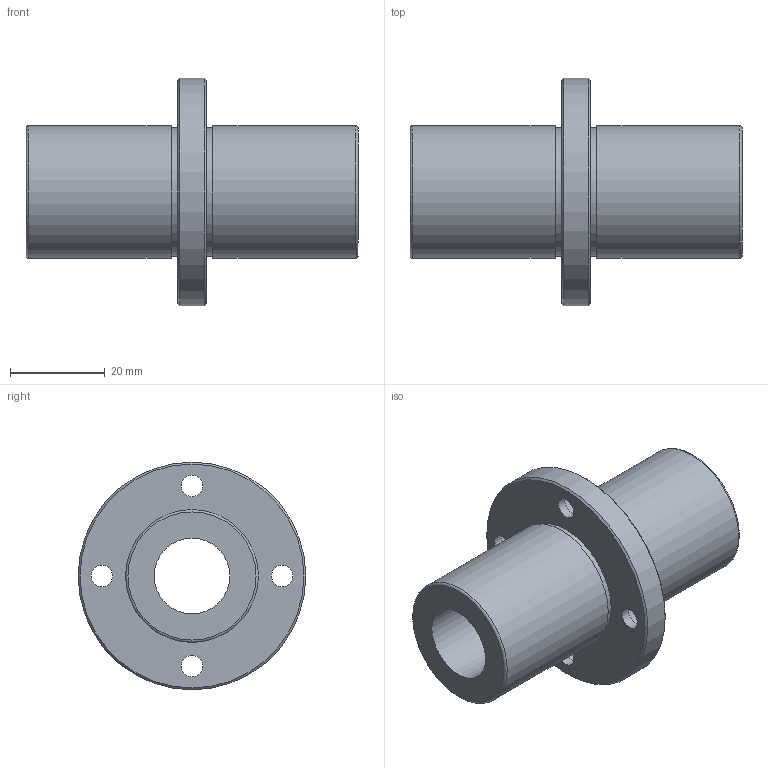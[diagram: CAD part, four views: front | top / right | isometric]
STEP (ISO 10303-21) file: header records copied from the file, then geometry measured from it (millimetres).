
FILE_DESCRIPTION(('STEP AP203'),'1');
FILE_NAME('//192.168.1.1/share/s-4 技術開発/s-4-4_CAD/s-4-4-3_見直し済み/002 修正済み/NFCD-VL/NFCD-VL_TOP/NFCD-16VLUU.step','2022-03-08T04:19:24',(' '),(' '),'Spatial InterOp 3D',' ',' ');
FILE_SCHEMA(('CONFIG_CONTROL_DESIGN'));
Length unit declared in the file: millimetre
Products named in the file (1): 1
Bounding box: 70 x 48 x 48 mm (x, y, z)
Volume: 35191.4 mm3; surface area: 13691.6 mm2
Topology: 1 solids, 1 shells, 28 faces, 56 edges, 38 vertices
Faces by surface type: cylinder 14, plane 10, torus 2, cone 2
Full cylindrical faces by diameter (mm): 4.5 x4, 7.5 x4, 16 x1, 27 x2, 28 x2, 48 x1
Entity records: 668 total; most frequent: DIRECTION 122, CARTESIAN_POINT 93, EDGE_LOOP 64, ORIENTED_EDGE 64, AXIS2_PLACEMENT_3D 61, FACE_OUTER_BOUND 44, EDGE_CURVE 32, VERTEX_POINT 32
